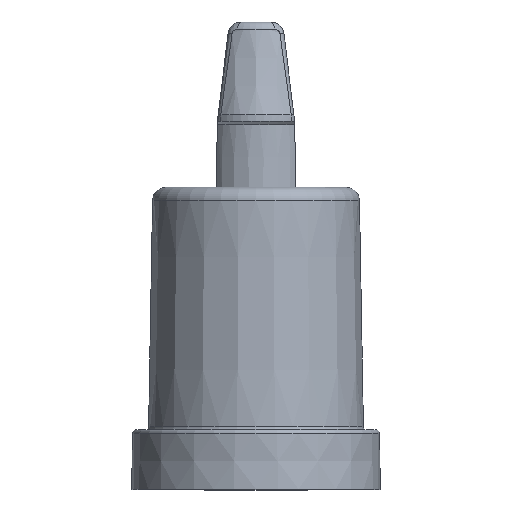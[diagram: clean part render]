
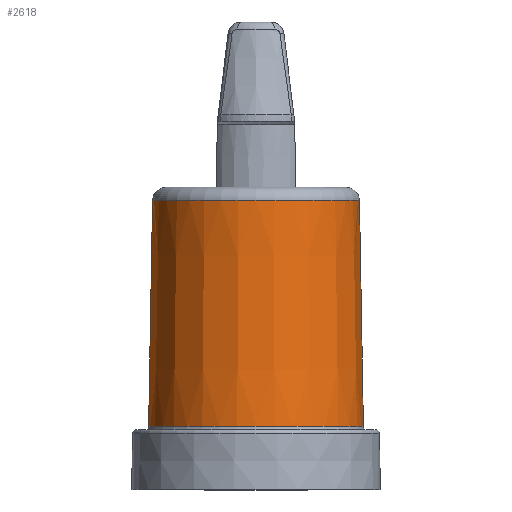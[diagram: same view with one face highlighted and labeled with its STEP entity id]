
A CAD part, top view. The second image highlights one B-rep face of the part: STEP entity #2618.
In plain terms, the highlighted conical face has half-angle 1 degrees and reference radius 7.949 mm.
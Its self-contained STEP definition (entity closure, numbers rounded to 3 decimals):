
#290=DIRECTION('',(-0.017,1.,0.));
#291=VECTOR('',#290,17.029);
#292=CARTESIAN_POINT('',(8.097,0.291,0.));
#293=LINE('',#292,#291);
#306=CARTESIAN_POINT('',(0.,0.291,0.));
#307=DIRECTION('',(0.,1.,0.));
#308=DIRECTION('',(-1.,0.,0.));
#309=AXIS2_PLACEMENT_3D('',#306,#307,#308);
#358=DIRECTION('',(0.017,1.,0.));
#359=VECTOR('',#358,17.029);
#360=CARTESIAN_POINT('',(-8.097,0.291,0.));
#361=LINE('',#360,#359);
#367=CARTESIAN_POINT('',(0.,17.317,0.));
#368=DIRECTION('',(0.,-1.,0.));
#369=DIRECTION('',(1.,0.,0.));
#370=AXIS2_PLACEMENT_3D('',#367,#368,#369);
#2295=CARTESIAN_POINT('',(-7.8,17.317,0.));
#2296=VERTEX_POINT('',#2295);
#2297=CARTESIAN_POINT('',(7.8,17.317,0.));
#2298=VERTEX_POINT('',#2297);
#2302=CARTESIAN_POINT('',(8.097,0.291,0.));
#2303=VERTEX_POINT('',#2302);
#2304=CARTESIAN_POINT('',(-8.097,0.291,0.));
#2305=VERTEX_POINT('',#2304);
#2606=CARTESIAN_POINT('',(0.,8.804,0.));
#2607=DIRECTION('',(0.,-1.,0.));
#2608=DIRECTION('',(-1.,0.,0.));
#2609=AXIS2_PLACEMENT_3D('',#2606,#2607,#2608);
#2610=CONICAL_SURFACE('',#2609,7.949,1.);
#2611=ORIENTED_EDGE('',*,*,#2572,.T.);
#2613=ORIENTED_EDGE('',*,*,#2612,.F.);
#2614=ORIENTED_EDGE('',*,*,#2568,.F.);
#2615=ORIENTED_EDGE('',*,*,#2590,.F.);
#2616=EDGE_LOOP('',(#2611,#2613,#2614,#2615));
#2617=FACE_OUTER_BOUND('',#2616,.F.);
#2618=ADVANCED_FACE('',(#2617),#2610,.T.);
#310=CIRCLE('',#309,8.097);
#371=CIRCLE('',#370,7.8);
#2568=EDGE_CURVE('',#2303,#2298,#293,.T.);
#2572=EDGE_CURVE('',#2305,#2296,#361,.T.);
#2590=EDGE_CURVE('',#2305,#2303,#310,.T.);
#2612=EDGE_CURVE('',#2298,#2296,#371,.T.);
